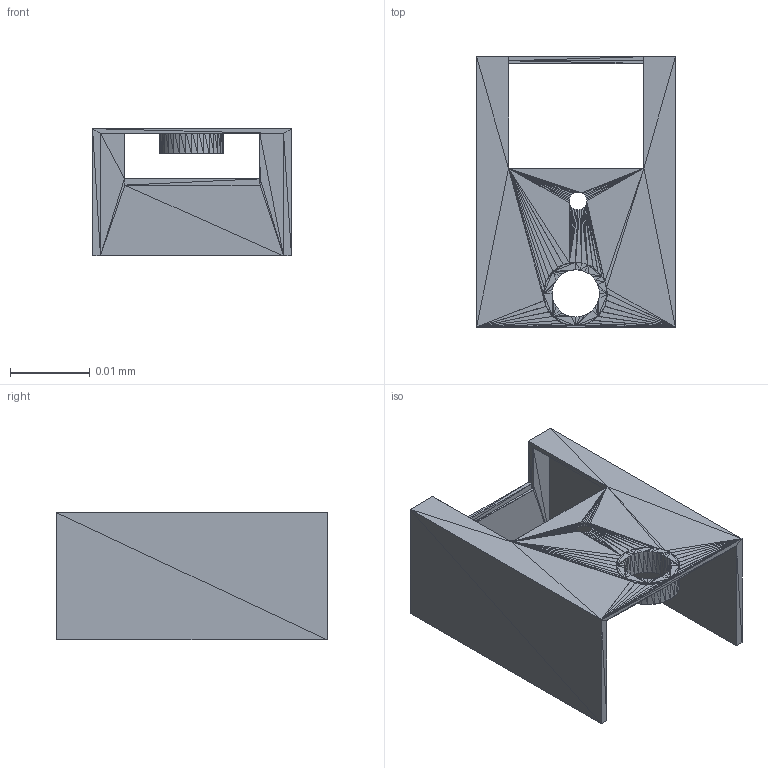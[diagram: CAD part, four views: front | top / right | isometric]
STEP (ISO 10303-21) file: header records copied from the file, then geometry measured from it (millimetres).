
FILE_DESCRIPTION((' Model'),'2;1');
FILE_NAME(' Shape Model','2026-05-29T17:26:09',(''),( ''),' ','','Unknown');
FILE_SCHEMA(('AUTOMOTIVE_DESIGN { 1 0 10303 214 1 1 1 1 }'));
Length unit declared in the file: millimetre
Products named in the file (3):  STEP translator 7.5 1;  STEP translator 7.5 1.1;  STEP translator 7.5 1.2
Assembly tree (2 placements, depth 2):
   STEP translator 7.5 1
     STEP translator 7.5 1.1
     STEP translator 7.5 1.2
Bounding box: 0.03 x 0.03 x 0.02 mm (x, y, z)
Surface area: 0 mm2 (no closed solid volume)
Topology: 0 solids, 2 shells, 724 faces, 1086 edges, 358 vertices
Faces by surface type: plane 724
Entity records: 27398 total; most frequent: CARTESIAN_POINT 5437, DIRECTION 3674, LINE 2220, VECTOR 2220, ORIENTED_EDGE 2188, PCURVE 2188, DEFINITIONAL_REPRESENTATION 2188, EDGE_CURVE 1094
